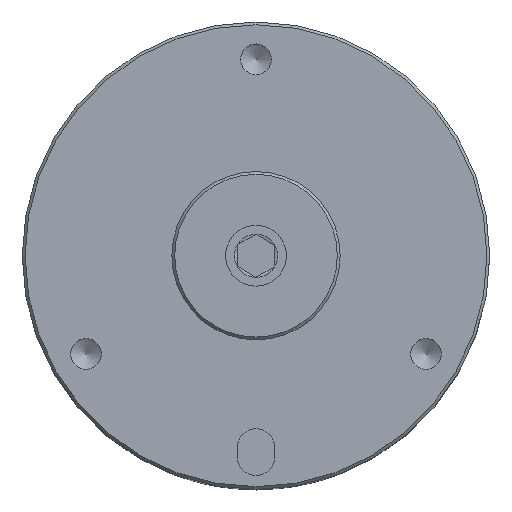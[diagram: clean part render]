
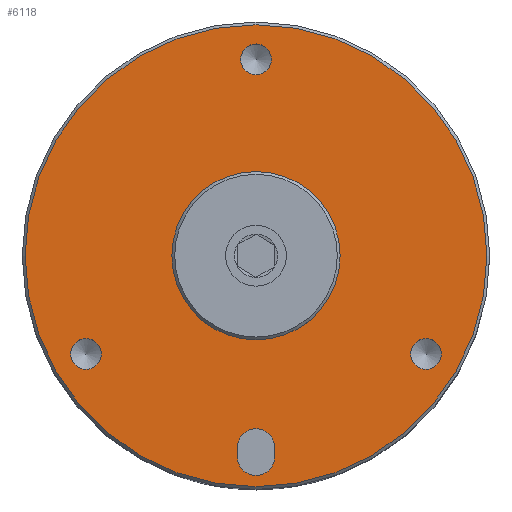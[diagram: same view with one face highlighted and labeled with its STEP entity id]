
A CAD part, top view. The second image highlights one B-rep face of the part: STEP entity #6118.
In plain terms, the highlighted planar face has unit normal (0, 0, 1).
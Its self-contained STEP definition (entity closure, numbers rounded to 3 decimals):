
#341=LINE('',#8691,#510);
#342=LINE('',#8696,#511);
#510=VECTOR('',#7188,1000.);
#511=VECTOR('',#7191,1000.);
#666=PLANE('',#6529);
#1017=ORIENTED_EDGE('',*,*,#2034,.F.);
#1018=ORIENTED_EDGE('',*,*,#2035,.T.);
#1019=ORIENTED_EDGE('',*,*,#2036,.F.);
#1020=ORIENTED_EDGE('',*,*,#2037,.T.);
#1021=ORIENTED_EDGE('',*,*,#2038,.T.);
#1022=ORIENTED_EDGE('',*,*,#2039,.T.);
#1023=ORIENTED_EDGE('',*,*,#2040,.T.);
#1024=ORIENTED_EDGE('',*,*,#2041,.T.);
#1025=ORIENTED_EDGE('',*,*,#2042,.T.);
#2034=EDGE_CURVE('',#2560,#2561,#341,.T.);
#2035=EDGE_CURVE('',#2560,#2562,#2888,.T.);
#2036=EDGE_CURVE('',#2563,#2562,#342,.T.);
#2037=EDGE_CURVE('',#2563,#2561,#2889,.T.);
#2038=EDGE_CURVE('',#2564,#2564,#2890,.T.);
#2039=EDGE_CURVE('',#2565,#2565,#2891,.T.);
#2040=EDGE_CURVE('',#2566,#2566,#2892,.T.);
#2041=EDGE_CURVE('',#2567,#2567,#2893,.T.);
#2042=EDGE_CURVE('',#2568,#2568,#2894,.F.);
#2560=VERTEX_POINT('',#8692);
#2561=VERTEX_POINT('',#8693);
#2562=VERTEX_POINT('',#8695);
#2563=VERTEX_POINT('',#8697);
#2564=VERTEX_POINT('',#8700);
#2565=VERTEX_POINT('',#8702);
#2566=VERTEX_POINT('',#8704);
#2567=VERTEX_POINT('',#8706);
#2568=VERTEX_POINT('',#8708);
#2888=CIRCLE('',#6530,2.);
#2889=CIRCLE('',#6531,2.);
#2890=CIRCLE('',#6532,9.);
#2891=CIRCLE('',#6533,1.65);
#2892=CIRCLE('',#6534,1.65);
#2893=CIRCLE('',#6535,1.65);
#2894=CIRCLE('',#6536,24.7);
#3126=EDGE_LOOP('',(#1017,#1018,#1019,#1020));
#3127=EDGE_LOOP('',(#1021));
#3128=EDGE_LOOP('',(#1022));
#3129=EDGE_LOOP('',(#1023));
#3130=EDGE_LOOP('',(#1024));
#3131=EDGE_LOOP('',(#1025));
#3563=FACE_BOUND('',#3126,.T.);
#3564=FACE_BOUND('',#3127,.T.);
#3565=FACE_BOUND('',#3128,.T.);
#3566=FACE_BOUND('',#3129,.T.);
#3567=FACE_BOUND('',#3130,.T.);
#3568=FACE_BOUND('',#3131,.T.);
#6118=ADVANCED_FACE('',(#3563,#3564,#3565,#3566,#3567,#3568),#666,.F.);
#6529=AXIS2_PLACEMENT_3D('',#8690,#7186,#7187);
#6530=AXIS2_PLACEMENT_3D('',#8694,#7189,#7190);
#6531=AXIS2_PLACEMENT_3D('',#8698,#7192,#7193);
#6532=AXIS2_PLACEMENT_3D('',#8699,#7194,#7195);
#6533=AXIS2_PLACEMENT_3D('',#8701,#7196,#7197);
#6534=AXIS2_PLACEMENT_3D('',#8703,#7198,#7199);
#6535=AXIS2_PLACEMENT_3D('',#8705,#7200,#7201);
#6536=AXIS2_PLACEMENT_3D('',#8707,#7202,#7203);
#7186=DIRECTION('',(0.,0.,-1.));
#7187=DIRECTION('',(0.,1.,0.));
#7188=DIRECTION('',(0.,1.,0.));
#7189=DIRECTION('',(0.,0.,-1.));
#7190=DIRECTION('',(0.,1.,0.));
#7191=DIRECTION('',(0.,-1.,0.));
#7192=DIRECTION('',(0.,0.,-1.));
#7193=DIRECTION('',(0.,1.,0.));
#7194=DIRECTION('',(0.,0.,-1.));
#7195=DIRECTION('',(1.,0.,0.));
#7196=DIRECTION('',(0.,0.,-1.));
#7197=DIRECTION('',(-1.,0.,0.));
#7198=DIRECTION('',(0.,0.,-1.));
#7199=DIRECTION('',(-1.,0.,0.));
#7200=DIRECTION('',(0.,0.,-1.));
#7201=DIRECTION('',(-1.,0.,0.));
#7202=DIRECTION('',(0.,0.,-1.));
#7203=DIRECTION('',(0.,1.,0.));
#8690=CARTESIAN_POINT('',(0.,0.,28.5));
#8691=CARTESIAN_POINT('',(2.,-23.5,28.5));
#8692=CARTESIAN_POINT('',(2.,-21.5,28.5));
#8693=CARTESIAN_POINT('',(2.,-20.5,28.5));
#8694=CARTESIAN_POINT('',(0.,-21.5,28.5));
#8695=CARTESIAN_POINT('',(-2.,-21.5,28.5));
#8696=CARTESIAN_POINT('',(-2.,-18.5,28.5));
#8697=CARTESIAN_POINT('',(-2.,-20.5,28.5));
#8698=CARTESIAN_POINT('',(0.,-20.5,28.5));
#8699=CARTESIAN_POINT('',(0.,0.,28.5));
#8700=CARTESIAN_POINT('',(9.,0.,28.5));
#8701=CARTESIAN_POINT('',(18.187,-10.5,28.5));
#8702=CARTESIAN_POINT('',(16.537,-10.5,28.5));
#8703=CARTESIAN_POINT('',(-18.187,-10.5,28.5));
#8704=CARTESIAN_POINT('',(-19.837,-10.5,28.5));
#8705=CARTESIAN_POINT('',(0.,21.,28.5));
#8706=CARTESIAN_POINT('',(-1.65,21.,28.5));
#8707=CARTESIAN_POINT('',(0.,0.,28.5));
#8708=CARTESIAN_POINT('',(0.,24.7,28.5));
